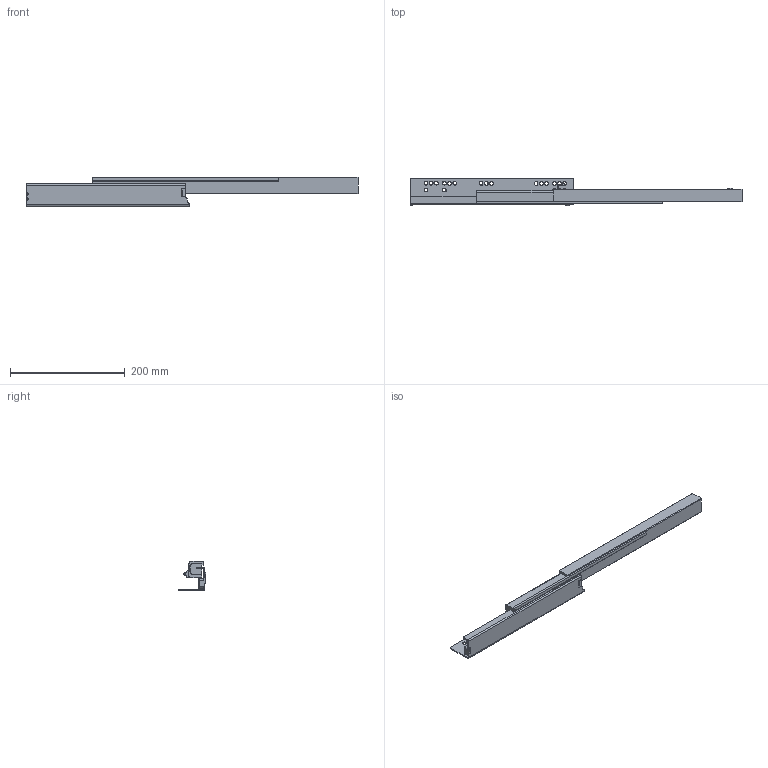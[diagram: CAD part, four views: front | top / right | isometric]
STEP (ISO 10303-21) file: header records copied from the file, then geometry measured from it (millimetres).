
FILE_DESCRIPTION (( 'STEP AP203' ), '1' );
FILE_NAME ('HT103504H-R(´ò¿ª).STEP', '2021-07-31T01:20:03', ( 'Users' ), ( 'Microsoft' ), 'SwSTEP 2.0', 'SolidWorks 2018', '' );
FILE_SCHEMA (( 'CONFIG_CONTROL_DESIGN' ));
Length unit declared in the file: millimetre
Products named in the file (1): HT103504H-R(湖羲)
Bounding box: 579.3 x 47.5 x 51.73 mm (x, y, z)
Volume: 348476.6 mm3; surface area: 103495.8 mm2
Topology: 1 solids, 2 shells, 221 faces, 582 edges, 365 vertices
Faces by surface type: cylinder 97, plane 70, cone 40, torus 12, sphere 2
Entity records: 6981 total; most frequent: DIRECTION 1271, CARTESIAN_POINT 1182, ORIENTED_EDGE 1160, EDGE_CURVE 580, AXIS2_PLACEMENT_3D 474, VERTEX_POINT 365, VECTOR 323, LINE 323
